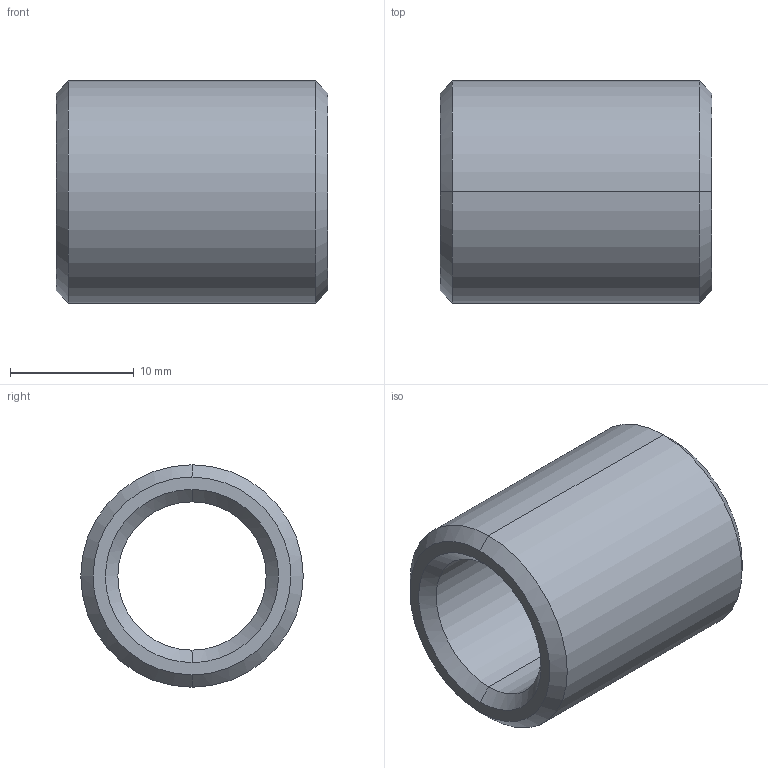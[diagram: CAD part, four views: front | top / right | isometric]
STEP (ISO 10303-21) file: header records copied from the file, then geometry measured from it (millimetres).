
FILE_DESCRIPTION(('CATIA V5 STEP Exchange'),'2;1');
FILE_NAME('C:\Users\Utente\Desktop\IO LAVORO\3D X SITO CF\X SITO\PLASTICA\352\352-12X22.stp','2021-04-10T09:27:50+00:00',('none'),('none'),'CATIA Version 5 Release 20 GA (IN-10)','CATIA V5 STEP AP203','none');
FILE_SCHEMA(('CONFIG_CONTROL_DESIGN'));
Length unit declared in the file: millimetre
Products named in the file (1): 352-12X22
Bounding box: 22 x 18 x 18 mm (x, y, z)
Volume: 3027.4 mm3; surface area: 2250.8 mm2
Topology: 1 solids, 1 shells, 14 faces, 44 edges, 32 vertices
Faces by surface type: cone 6, cylinder 4, plane 2, torus 2
Entity records: 634 total; most frequent: CARTESIAN_POINT 203, ORIENTED_EDGE 88, DIRECTION 64, EDGE_CURVE 44, AXIS2_PLACEMENT_3D 41, VERTEX_POINT 32, CIRCLE 26, EDGE_LOOP 16
